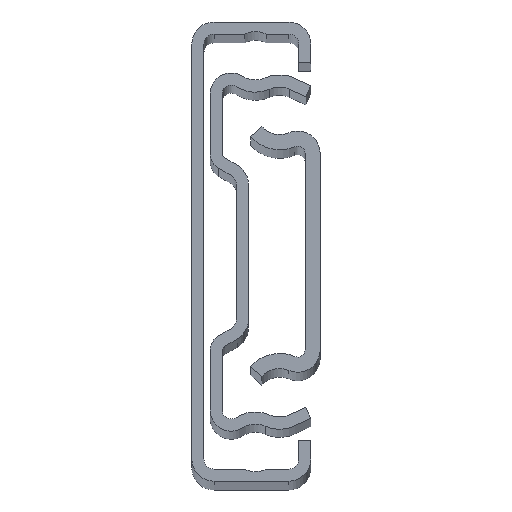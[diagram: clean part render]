
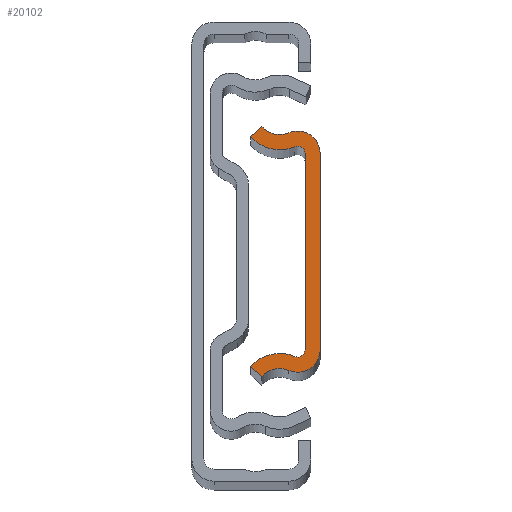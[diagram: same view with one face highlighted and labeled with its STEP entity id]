
A CAD part, top view. The second image highlights one B-rep face of the part: STEP entity #20102.
In plain terms, the highlighted planar face has unit normal (0, 0, 1).
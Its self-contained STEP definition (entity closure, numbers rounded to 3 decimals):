
#583 = DIRECTION ( 'NONE',  ( 0., 0., 1. ) ) ;
#669 = CARTESIAN_POINT ( 'NONE',  ( 1.95, -9.725, 0. ) ) ;
#722 = ORIENTED_EDGE ( 'NONE', *, *, #3944, .T. ) ;
#870 = FACE_OUTER_BOUND ( 'NONE', #26900, .T. ) ;
#1177 = EDGE_CURVE ( 'NONE', #11326, #1347, #20368, .T. ) ;
#1250 = CARTESIAN_POINT ( 'NONE',  ( 0.36, 11.777, 0. ) ) ;
#1342 = CIRCLE ( 'NONE', #12445, 0.726 ) ;
#1347 = VERTEX_POINT ( 'NONE', #25056 ) ;
#1394 = VERTEX_POINT ( 'NONE', #3466 ) ;
#2090 = AXIS2_PLACEMENT_3D ( 'NONE', #12311, #16902, #27924 ) ;
#2187 = VECTOR ( 'NONE', #8568, 1000. ) ;
#2423 = AXIS2_PLACEMENT_3D ( 'NONE', #13698, #583, #15882 ) ;
#2495 = VECTOR ( 'NONE', #12587, 1000. ) ;
#2591 = DIRECTION ( 'NONE',  ( 0., 0., -1. ) ) ;
#2627 = CARTESIAN_POINT ( 'NONE',  ( 0.942, 10.394, 0. ) ) ;
#2636 = DIRECTION ( 'NONE',  ( 0., 0., 1. ) ) ;
#2670 = EDGE_CURVE ( 'NONE', #4068, #26663, #19954, .T. ) ;
#3185 = VECTOR ( 'NONE', #25991, 1000. ) ;
#3335 = EDGE_CURVE ( 'NONE', #8799, #18270, #10271, .T. ) ;
#3457 = AXIS2_PLACEMENT_3D ( 'NONE', #7003, #2636, #11003 ) ;
#3466 = CARTESIAN_POINT ( 'NONE',  ( -3.45, -11.377, 0. ) ) ;
#3944 = EDGE_CURVE ( 'NONE', #25536, #8799, #25415, .T. ) ;
#4063 = CIRCLE ( 'NONE', #3457, 3.88 ) ;
#4068 = VERTEX_POINT ( 'NONE', #1250 ) ;
#4899 = CARTESIAN_POINT ( 'NONE',  ( 1.95, -9.725, 0. ) ) ;
#5131 = CARTESIAN_POINT ( 'NONE',  ( 3.45, 9.725, 0. ) ) ;
#5282 = AXIS2_PLACEMENT_3D ( 'NONE', #14795, #25979, #14701 ) ;
#5785 = VERTEX_POINT ( 'NONE', #5131 ) ;
#5803 = CARTESIAN_POINT ( 'NONE',  ( 1.224, 9.725, 0. ) ) ;
#6590 = DIRECTION ( 'NONE',  ( 1., 0., 0. ) ) ;
#6994 = DIRECTION ( 'NONE',  ( 0., -1., 0. ) ) ;
#7003 = CARTESIAN_POINT ( 'NONE',  ( -0.564, -13.97, 0. ) ) ;
#8263 = ORIENTED_EDGE ( 'NONE', *, *, #25614, .T. ) ;
#8294 = EDGE_CURVE ( 'NONE', #16903, #17464, #18004, .T. ) ;
#8470 = CARTESIAN_POINT ( 'NONE',  ( -3.45, 11.377, 0. ) ) ;
#8501 = ORIENTED_EDGE ( 'NONE', *, *, #8294, .T. ) ;
#8544 = PLANE ( 'NONE',  #5282 ) ;
#8568 = DIRECTION ( 'NONE',  ( 0., 1., 0. ) ) ;
#8584 = ORIENTED_EDGE ( 'NONE', *, *, #18275, .T. ) ;
#8794 = DIRECTION ( 'NONE',  ( 0., 0., -1. ) ) ;
#8799 = VERTEX_POINT ( 'NONE', #4899 ) ;
#9368 = ORIENTED_EDGE ( 'NONE', *, *, #14854, .T. ) ;
#9426 = ORIENTED_EDGE ( 'NONE', *, *, #16150, .T. ) ;
#10094 = CARTESIAN_POINT ( 'NONE',  ( -2.333, -12.378, 0. ) ) ;
#10231 = AXIS2_PLACEMENT_3D ( 'NONE', #25278, #18617, #21228 ) ;
#10271 = CIRCLE ( 'NONE', #25996, 0.726 ) ;
#10835 = DIRECTION ( 'NONE',  ( -1., 0., 0. ) ) ;
#11003 = DIRECTION ( 'NONE',  ( 1., 0., 0. ) ) ;
#11326 = VERTEX_POINT ( 'NONE', #20319 ) ;
#11361 = ORIENTED_EDGE ( 'NONE', *, *, #26239, .T. ) ;
#12009 = CIRCLE ( 'NONE', #19521, 2.38 ) ;
#12311 = CARTESIAN_POINT ( 'NONE',  ( -0.564, 13.97, 0. ) ) ;
#12317 = CARTESIAN_POINT ( 'NONE',  ( 1.95, 9.725, 0. ) ) ;
#12419 = LINE ( 'NONE', #14727, #2187 ) ;
#12445 = AXIS2_PLACEMENT_3D ( 'NONE', #15608, #8794, #17624 ) ;
#12587 = DIRECTION ( 'NONE',  ( 0.745, -0.667, 0. ) ) ;
#13102 = CARTESIAN_POINT ( 'NONE',  ( 1.224, -9.725, 0. ) ) ;
#13274 = ORIENTED_EDGE ( 'NONE', *, *, #23043, .T. ) ;
#13698 = CARTESIAN_POINT ( 'NONE',  ( 1.224, -9.725, 0. ) ) ;
#14701 = DIRECTION ( 'NONE',  ( 1., 0., 0. ) ) ;
#14727 = CARTESIAN_POINT ( 'NONE',  ( 3.45, -9.725, 0. ) ) ;
#14795 = CARTESIAN_POINT ( 'NONE',  ( -0.564, -13.97, 0. ) ) ;
#14854 = EDGE_CURVE ( 'NONE', #1347, #5785, #12419, .T. ) ;
#15608 = CARTESIAN_POINT ( 'NONE',  ( 1.224, 9.725, 0. ) ) ;
#15882 = DIRECTION ( 'NONE',  ( 1., 0., 0. ) ) ;
#16089 = VERTEX_POINT ( 'NONE', #10094 ) ;
#16125 = ORIENTED_EDGE ( 'NONE', *, *, #1177, .T. ) ;
#16150 = EDGE_CURVE ( 'NONE', #1394, #16089, #23068, .T. ) ;
#16333 = AXIS2_PLACEMENT_3D ( 'NONE', #5803, #21145, #10835 ) ;
#16902 = DIRECTION ( 'NONE',  ( 0., 0., -1. ) ) ;
#16903 = VERTEX_POINT ( 'NONE', #26825 ) ;
#17185 = LINE ( 'NONE', #8470, #3185 ) ;
#17464 = VERTEX_POINT ( 'NONE', #2627 ) ;
#17517 = CARTESIAN_POINT ( 'NONE',  ( -2.333, 12.378, 0. ) ) ;
#17549 = DIRECTION ( 'NONE',  ( 0., 0., -1. ) ) ;
#17624 = DIRECTION ( 'NONE',  ( -1., 0., 0. ) ) ;
#17837 = DIRECTION ( 'NONE',  ( 1., 0., 0. ) ) ;
#18004 = CIRCLE ( 'NONE', #10231, 3.88 ) ;
#18270 = VERTEX_POINT ( 'NONE', #20155 ) ;
#18275 = EDGE_CURVE ( 'NONE', #18270, #1394, #4063, .T. ) ;
#18617 = DIRECTION ( 'NONE',  ( 0., 0., 1. ) ) ;
#19521 = AXIS2_PLACEMENT_3D ( 'NONE', #19792, #17549, #17837 ) ;
#19792 = CARTESIAN_POINT ( 'NONE',  ( -0.564, -13.97, 0. ) ) ;
#19954 = CIRCLE ( 'NONE', #2090, 2.38 ) ;
#20102 = ADVANCED_FACE ( 'Face2', ( #870 ), #8544, .T. ) ;
#20155 = CARTESIAN_POINT ( 'NONE',  ( 0.942, -10.394, 0. ) ) ;
#20319 = CARTESIAN_POINT ( 'NONE',  ( 0.36, -11.777, 0. ) ) ;
#20368 = CIRCLE ( 'NONE', #2423, 2.226 ) ;
#20450 = CIRCLE ( 'NONE', #16333, 2.226 ) ;
#20737 = EDGE_CURVE ( 'NONE', #17464, #25536, #1342, .T. ) ;
#21145 = DIRECTION ( 'NONE',  ( 0., 0., 1. ) ) ;
#21228 = DIRECTION ( 'NONE',  ( -1., 0., 0. ) ) ;
#21443 = CARTESIAN_POINT ( 'NONE',  ( -3.45, -11.377, 0. ) ) ;
#23043 = EDGE_CURVE ( 'NONE', #5785, #4068, #20450, .T. ) ;
#23068 = LINE ( 'NONE', #21443, #2495 ) ;
#24288 = ORIENTED_EDGE ( 'NONE', *, *, #2670, .T. ) ;
#24747 = ORIENTED_EDGE ( 'NONE', *, *, #20737, .T. ) ;
#25045 = VECTOR ( 'NONE', #6994, 1000. ) ;
#25056 = CARTESIAN_POINT ( 'NONE',  ( 3.45, -9.725, 0. ) ) ;
#25278 = CARTESIAN_POINT ( 'NONE',  ( -0.564, 13.97, 0. ) ) ;
#25415 = LINE ( 'NONE', #669, #25045 ) ;
#25536 = VERTEX_POINT ( 'NONE', #12317 ) ;
#25614 = EDGE_CURVE ( 'NONE', #26663, #16903, #17185, .T. ) ;
#25979 = DIRECTION ( 'NONE',  ( 0., 0., 1. ) ) ;
#25991 = DIRECTION ( 'NONE',  ( -0.745, -0.667, 0. ) ) ;
#25996 = AXIS2_PLACEMENT_3D ( 'NONE', #13102, #2591, #6590 ) ;
#26239 = EDGE_CURVE ( 'NONE', #16089, #11326, #12009, .T. ) ;
#26663 = VERTEX_POINT ( 'NONE', #17517 ) ;
#26825 = CARTESIAN_POINT ( 'NONE',  ( -3.45, 11.377, 0. ) ) ;
#26900 = EDGE_LOOP ( 'NONE', ( #11361, #16125, #9368, #13274, #24288, #8263, #8501, #24747, #722, #27933, #8584, #9426 ) ) ;
#27924 = DIRECTION ( 'NONE',  ( -1., 0., 0. ) ) ;
#27933 = ORIENTED_EDGE ( 'NONE', *, *, #3335, .T. ) ;
